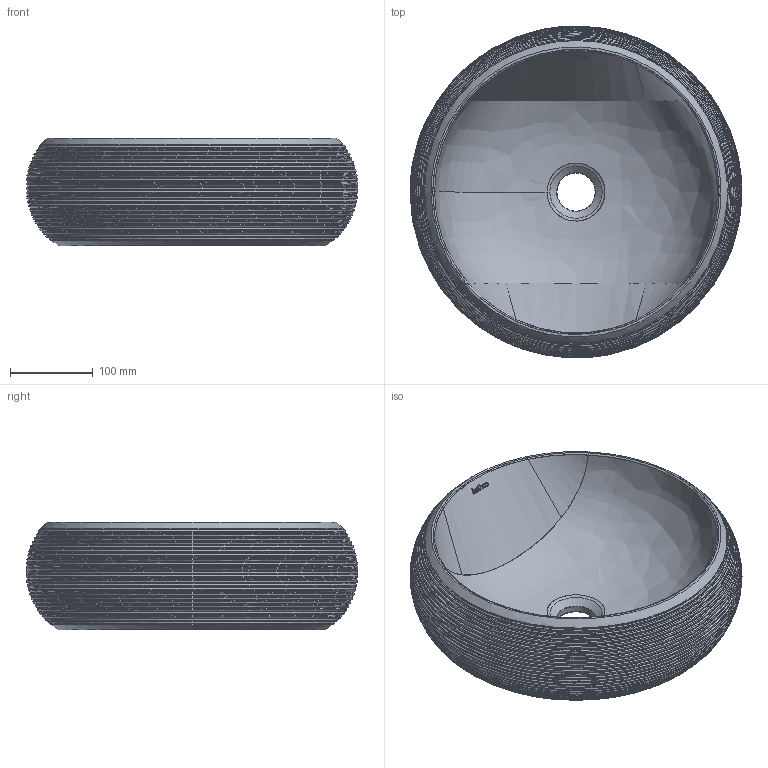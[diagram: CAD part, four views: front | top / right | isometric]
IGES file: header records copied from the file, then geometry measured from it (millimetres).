
Global section: file name: C:\Users\User\Desktop\Modelos 3D\00608_Domed\00608_Domed.igs; native system: Rhinoceros ( May  7 2021 ); preprocessor: Trout Lake IGES 012 May  7 2021; date: 231115.113235; units: millimetre
Bounding box: 400.73 x 400.73 x 130 mm (x, y, z)
Surface area: 483112.9 mm2 (no closed solid volume)
Topology: 0 solids, 0 shells, 217 faces, 2082 edges, 1967 vertices
Faces by surface type: bspline 217
